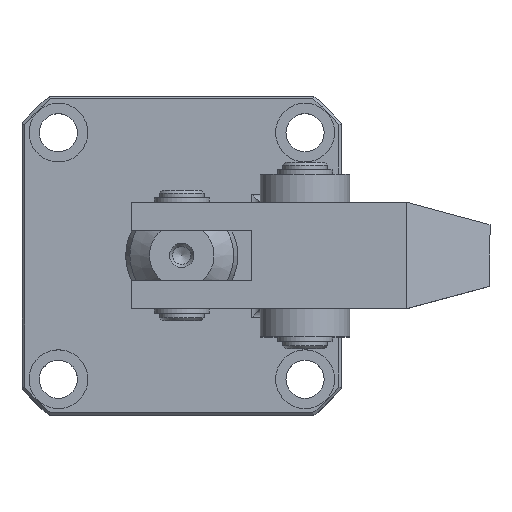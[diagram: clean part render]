
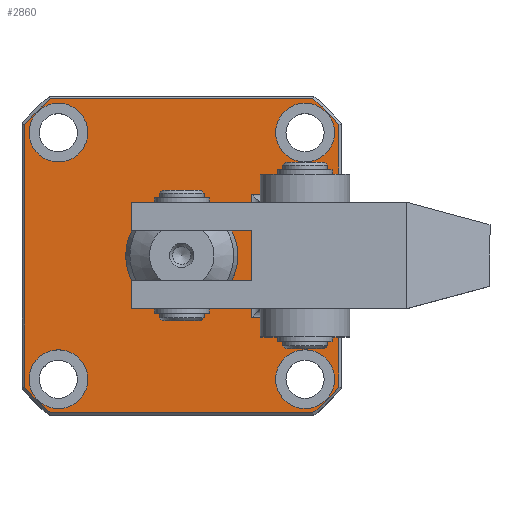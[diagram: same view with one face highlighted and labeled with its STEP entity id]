
A CAD part, top view. The second image highlights one B-rep face of the part: STEP entity #2860.
In plain terms, the highlighted planar face has unit normal (0, 0, 1).
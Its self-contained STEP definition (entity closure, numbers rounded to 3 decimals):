
#141=CIRCLE('',#3059,36.5);
#142=CIRCLE('',#3060,36.5);
#143=CIRCLE('',#3061,36.5);
#144=CIRCLE('',#3062,36.5);
#145=CIRCLE('',#3063,5.25);
#146=CIRCLE('',#3064,5.25);
#147=CIRCLE('',#3065,5.25);
#148=CIRCLE('',#3066,5.25);
#149=CIRCLE('',#3067,10.);
#271=PLANE('',#3058);
#354=LINE('',#4166,#483);
#355=LINE('',#4169,#484);
#356=LINE('',#4171,#485);
#357=LINE('',#4173,#486);
#358=LINE('',#4175,#487);
#359=LINE('',#4179,#488);
#360=LINE('',#4183,#489);
#361=LINE('',#4187,#490);
#483=VECTOR('',#3396,1000.);
#484=VECTOR('',#3397,1000.);
#485=VECTOR('',#3398,1000.);
#486=VECTOR('',#3399,1000.);
#487=VECTOR('',#3400,1000.);
#488=VECTOR('',#3403,1000.);
#489=VECTOR('',#3406,1000.);
#490=VECTOR('',#3409,1000.);
#617=ORIENTED_EDGE('',*,*,#1208,.T.);
#618=ORIENTED_EDGE('',*,*,#1209,.T.);
#619=ORIENTED_EDGE('',*,*,#1210,.T.);
#620=ORIENTED_EDGE('',*,*,#1211,.T.);
#621=ORIENTED_EDGE('',*,*,#1212,.T.);
#622=ORIENTED_EDGE('',*,*,#1213,.T.);
#623=ORIENTED_EDGE('',*,*,#1214,.T.);
#624=ORIENTED_EDGE('',*,*,#1215,.T.);
#625=ORIENTED_EDGE('',*,*,#1216,.T.);
#626=ORIENTED_EDGE('',*,*,#1217,.T.);
#627=ORIENTED_EDGE('',*,*,#1218,.T.);
#628=ORIENTED_EDGE('',*,*,#1219,.T.);
#629=ORIENTED_EDGE('',*,*,#1220,.F.);
#630=ORIENTED_EDGE('',*,*,#1221,.F.);
#631=ORIENTED_EDGE('',*,*,#1222,.F.);
#632=ORIENTED_EDGE('',*,*,#1223,.F.);
#633=ORIENTED_EDGE('',*,*,#1224,.T.);
#1208=EDGE_CURVE('',#1503,#1504,#354,.T.);
#1209=EDGE_CURVE('',#1504,#1505,#355,.F.);
#1210=EDGE_CURVE('',#1505,#1506,#356,.F.);
#1211=EDGE_CURVE('',#1506,#1507,#357,.F.);
#1212=EDGE_CURVE('',#1507,#1508,#358,.T.);
#1213=EDGE_CURVE('',#1508,#1509,#141,.T.);
#1214=EDGE_CURVE('',#1509,#1510,#359,.T.);
#1215=EDGE_CURVE('',#1510,#1511,#142,.T.);
#1216=EDGE_CURVE('',#1511,#1512,#360,.T.);
#1217=EDGE_CURVE('',#1512,#1513,#143,.T.);
#1218=EDGE_CURVE('',#1513,#1514,#361,.T.);
#1219=EDGE_CURVE('',#1514,#1503,#144,.T.);
#1220=EDGE_CURVE('',#1515,#1515,#145,.T.);
#1221=EDGE_CURVE('',#1516,#1516,#146,.T.);
#1222=EDGE_CURVE('',#1517,#1517,#147,.T.);
#1223=EDGE_CURVE('',#1518,#1518,#148,.T.);
#1224=EDGE_CURVE('',#1519,#1519,#149,.T.);
#1503=VERTEX_POINT('',#4167);
#1504=VERTEX_POINT('',#4168);
#1505=VERTEX_POINT('',#4170);
#1506=VERTEX_POINT('',#4172);
#1507=VERTEX_POINT('',#4174);
#1508=VERTEX_POINT('',#4176);
#1509=VERTEX_POINT('',#4178);
#1510=VERTEX_POINT('',#4180);
#1511=VERTEX_POINT('',#4182);
#1512=VERTEX_POINT('',#4184);
#1513=VERTEX_POINT('',#4186);
#1514=VERTEX_POINT('',#4188);
#1515=VERTEX_POINT('',#4191);
#1516=VERTEX_POINT('',#4193);
#1517=VERTEX_POINT('',#4195);
#1518=VERTEX_POINT('',#4197);
#1519=VERTEX_POINT('',#4199);
#1724=EDGE_LOOP('',(#617,#618,#619,#620,#621,#622,#623,#624,#625,#626,#627,
#628));
#1725=EDGE_LOOP('',(#629));
#1726=EDGE_LOOP('',(#630));
#1727=EDGE_LOOP('',(#631));
#1728=EDGE_LOOP('',(#632));
#1729=EDGE_LOOP('',(#633));
#1983=FACE_BOUND('',#1724,.T.);
#1984=FACE_BOUND('',#1725,.T.);
#1985=FACE_BOUND('',#1726,.T.);
#1986=FACE_BOUND('',#1727,.T.);
#1987=FACE_BOUND('',#1728,.T.);
#1988=FACE_BOUND('',#1729,.T.);
#2860=ADVANCED_FACE('',(#1983,#1984,#1985,#1986,#1987,#1988),#271,.T.);
#3058=AXIS2_PLACEMENT_3D('',#4165,#3394,#3395);
#3059=AXIS2_PLACEMENT_3D('',#4177,#3401,#3402);
#3060=AXIS2_PLACEMENT_3D('',#4181,#3404,#3405);
#3061=AXIS2_PLACEMENT_3D('',#4185,#3407,#3408);
#3062=AXIS2_PLACEMENT_3D('',#4189,#3410,#3411);
#3063=AXIS2_PLACEMENT_3D('',#4190,#3412,#3413);
#3064=AXIS2_PLACEMENT_3D('',#4192,#3414,#3415);
#3065=AXIS2_PLACEMENT_3D('',#4194,#3416,#3417);
#3066=AXIS2_PLACEMENT_3D('',#4196,#3418,#3419);
#3067=AXIS2_PLACEMENT_3D('',#4198,#3420,#3421);
#3394=DIRECTION('',(0.,0.,1.));
#3395=DIRECTION('',(0.,-1.,0.));
#3396=DIRECTION('',(0.,1.,0.));
#3397=DIRECTION('',(1.,0.,0.));
#3398=DIRECTION('',(0.,-1.,0.));
#3399=DIRECTION('',(-1.,0.,0.));
#3400=DIRECTION('',(0.,1.,0.));
#3401=DIRECTION('',(0.,0.,1.));
#3402=DIRECTION('',(0.,-1.,0.));
#3403=DIRECTION('',(-1.,0.,0.));
#3404=DIRECTION('',(0.,0.,1.));
#3405=DIRECTION('',(0.,-1.,0.));
#3406=DIRECTION('',(0.,-1.,0.));
#3407=DIRECTION('',(0.,0.,1.));
#3408=DIRECTION('',(0.,-1.,0.));
#3409=DIRECTION('',(1.,0.,0.));
#3410=DIRECTION('',(0.,0.,1.));
#3411=DIRECTION('',(0.,-1.,0.));
#3412=DIRECTION('',(0.,0.,1.));
#3413=DIRECTION('',(1.,0.,0.));
#3414=DIRECTION('',(0.,0.,1.));
#3415=DIRECTION('',(1.,0.,0.));
#3416=DIRECTION('',(0.,0.,1.));
#3417=DIRECTION('',(1.,0.,0.));
#3418=DIRECTION('',(0.,0.,1.));
#3419=DIRECTION('',(1.,0.,0.));
#3420=DIRECTION('',(0.,0.,-1.));
#3421=DIRECTION('',(0.,-1.,0.));
#4165=CARTESIAN_POINT('',(0.,0.,88.));
#4166=CARTESIAN_POINT('',(28.,0.,88.));
#4167=CARTESIAN_POINT('',(28.,-23.415,88.));
#4168=CARTESIAN_POINT('',(28.,-11.,88.));
#4169=CARTESIAN_POINT('',(0.,-11.,88.));
#4170=CARTESIAN_POINT('',(12.5,-11.,88.));
#4171=CARTESIAN_POINT('',(12.5,9.5,88.));
#4172=CARTESIAN_POINT('',(12.5,11.,88.));
#4173=CARTESIAN_POINT('',(28.,11.,88.));
#4174=CARTESIAN_POINT('',(28.,11.,88.));
#4175=CARTESIAN_POINT('',(28.,0.,88.));
#4176=CARTESIAN_POINT('',(28.,23.415,88.));
#4177=CARTESIAN_POINT('',(0.,0.,88.));
#4178=CARTESIAN_POINT('',(23.415,28.,88.));
#4179=CARTESIAN_POINT('',(0.,28.,88.));
#4180=CARTESIAN_POINT('',(-23.415,28.,88.));
#4181=CARTESIAN_POINT('',(0.,0.,88.));
#4182=CARTESIAN_POINT('',(-28.,23.415,88.));
#4183=CARTESIAN_POINT('',(-28.,0.,88.));
#4184=CARTESIAN_POINT('',(-28.,-23.415,88.));
#4185=CARTESIAN_POINT('',(0.,0.,88.));
#4186=CARTESIAN_POINT('',(-23.415,-28.,88.));
#4187=CARTESIAN_POINT('',(0.,-28.,88.));
#4188=CARTESIAN_POINT('',(23.415,-28.,88.));
#4189=CARTESIAN_POINT('',(0.,0.,88.));
#4190=CARTESIAN_POINT('',(-22.,22.,88.));
#4191=CARTESIAN_POINT('',(-16.75,22.,88.));
#4192=CARTESIAN_POINT('',(22.,22.,88.));
#4193=CARTESIAN_POINT('',(27.25,22.,88.));
#4194=CARTESIAN_POINT('',(22.,-22.,88.));
#4195=CARTESIAN_POINT('',(27.25,-22.,88.));
#4196=CARTESIAN_POINT('',(-22.,-22.,88.));
#4197=CARTESIAN_POINT('',(-16.75,-22.,88.));
#4198=CARTESIAN_POINT('',(0.,0.,88.));
#4199=CARTESIAN_POINT('',(0.,-10.,88.));
